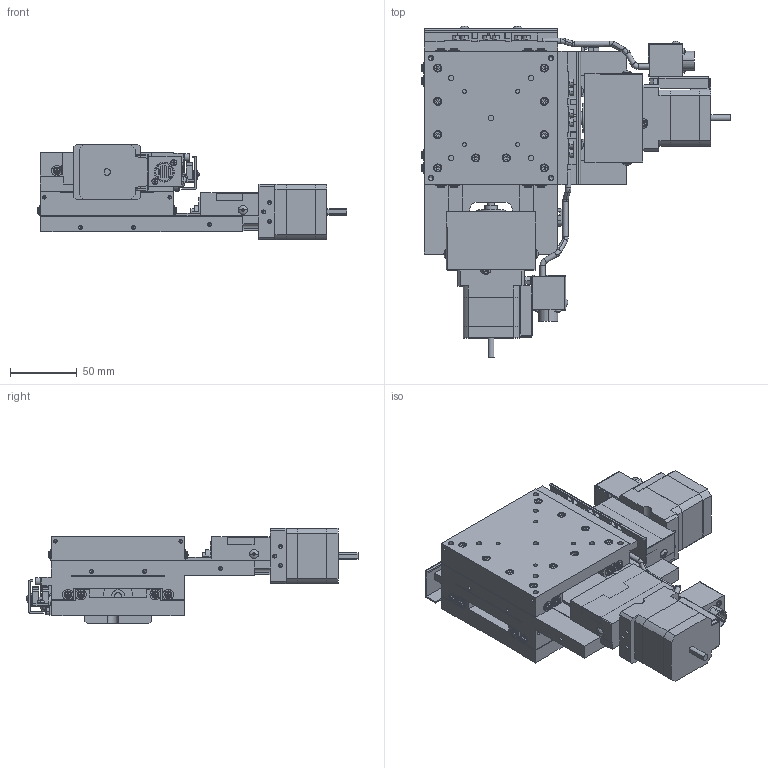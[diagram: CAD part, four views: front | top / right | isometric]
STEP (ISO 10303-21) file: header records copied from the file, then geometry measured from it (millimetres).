
FILE_DESCRIPTION (( 'STEP AP203' ), '1' );
FILE_NAME ('YA10A-R102.STEP', '2019-03-08T08:27:25', ( '' ), ( '' ), 'SwSTEP 2.0', 'SolidWorks 2018', '' );
FILE_SCHEMA (( 'CONFIG_CONTROL_DESIGN' ));
Length unit declared in the file: millimetre
Products named in the file (4): YA10A-R102; second table; table; base
Assembly tree (3 placements, depth 2):
  YA10A-R102
    base
    table
    second table
Bounding box: 232.48 x 249.09 x 72 mm (x, y, z)
Volume: 941706.8 mm3; surface area: 253571.6 mm2
Topology: 3 solids, 9 shells, 4183 faces, 10361 edges, 6334 vertices
Faces by surface type: plane 2511, cylinder 980, cone 552, sphere 72, torus 68
Entity records: 124051 total; most frequent: CARTESIAN_POINT 22335, DIRECTION 22127, ORIENTED_EDGE 20386, EDGE_CURVE 10193, AXIS2_PLACEMENT_3D 7894, LINE 6339, VECTOR 6339, VERTEX_POINT 6334
